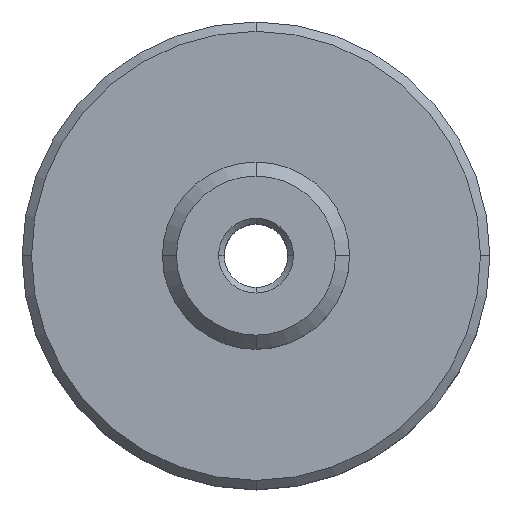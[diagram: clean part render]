
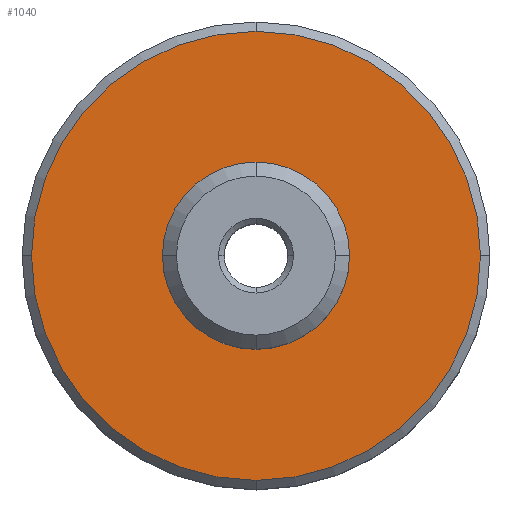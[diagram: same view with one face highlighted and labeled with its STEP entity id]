
A CAD part, top view. The second image highlights one B-rep face of the part: STEP entity #1040.
In plain terms, the highlighted planar face has unit normal (0, 0, 1).
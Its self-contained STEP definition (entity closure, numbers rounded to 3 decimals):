
#246=CARTESIAN_POINT('',(-10.,0.,0.0));
#247=VERTEX_POINT('',#246);
#263=CARTESIAN_POINT('',(0.,10.,0.0));
#264=VERTEX_POINT('',#263);
#271=CARTESIAN_POINT('',(0.0,0.0,0.0));
#272=DIRECTION('',(0.0,0.0,1.0));
#273=DIRECTION('',(0.0,-1.0,0.0));
#274=AXIS2_PLACEMENT_3D('',#271,#272,#273);
#275=CIRCLE('',#274,10.);
#276=EDGE_CURVE('',#264,#247,#275,.T.);
#288=CARTESIAN_POINT('',(-24.,0.,0.0));
#289=VERTEX_POINT('',#288);
#305=CARTESIAN_POINT('',(0.0,-24.,0.));
#306=VERTEX_POINT('',#305);
#313=CARTESIAN_POINT('',(0.0,0.0,0.0));
#314=DIRECTION('',(0.0,0.0,1.0));
#315=DIRECTION('',(0.0,-1.0,0.0));
#316=AXIS2_PLACEMENT_3D('',#313,#314,#315);
#317=CIRCLE('',#316,24.);
#318=EDGE_CURVE('',#289,#306,#317,.T.);
#556=CARTESIAN_POINT('',(24.,0.,0.0));
#557=VERTEX_POINT('',#556);
#571=CARTESIAN_POINT('',(0.,24.,0.0));
#572=VERTEX_POINT('',#571);
#579=CARTESIAN_POINT('',(0.0,0.0,0.0));
#580=DIRECTION('',(0.0,0.0,1.0));
#581=DIRECTION('',(0.0,-1.0,0.0));
#582=AXIS2_PLACEMENT_3D('',#579,#580,#581);
#583=CIRCLE('',#582,24.);
#584=EDGE_CURVE('',#557,#572,#583,.T.);
#596=CARTESIAN_POINT('',(10.,0.,0.0));
#597=VERTEX_POINT('',#596);
#611=CARTESIAN_POINT('',(0.0,-10.,0.0));
#612=VERTEX_POINT('',#611);
#619=CARTESIAN_POINT('',(0.0,0.0,0.0));
#620=DIRECTION('',(0.0,0.0,1.0));
#621=DIRECTION('',(0.0,-1.0,0.0));
#622=AXIS2_PLACEMENT_3D('',#619,#620,#621);
#623=CIRCLE('',#622,10.);
#624=EDGE_CURVE('',#612,#597,#623,.T.);
#807=CARTESIAN_POINT('',(0.0,0.0,0.0));
#808=DIRECTION('',(0.0,0.0,1.0));
#809=DIRECTION('',(0.0,-1.0,0.0));
#810=AXIS2_PLACEMENT_3D('',#807,#808,#809);
#811=CIRCLE('',#810,10.);
#812=EDGE_CURVE('',#597,#264,#811,.T.);
#825=CARTESIAN_POINT('',(0.0,0.0,0.0));
#826=DIRECTION('',(0.0,0.0,1.0));
#827=DIRECTION('',(0.0,-1.0,0.0));
#828=AXIS2_PLACEMENT_3D('',#825,#826,#827);
#829=CIRCLE('',#828,24.);
#830=EDGE_CURVE('',#306,#557,#829,.T.);
#1005=CARTESIAN_POINT('',(0.0,0.0,0.0));
#1006=DIRECTION('',(0.0,0.0,1.0));
#1007=DIRECTION('',(0.0,-1.0,0.0));
#1008=AXIS2_PLACEMENT_3D('',#1005,#1006,#1007);
#1009=CIRCLE('',#1008,24.);
#1010=EDGE_CURVE('',#572,#289,#1009,.T.);
#1017=CARTESIAN_POINT('',(-26.4,-26.4,0.0));
#1018=DIRECTION('',(0.0,0.0,1.0));
#1019=DIRECTION('',(1.0,0.0,0.0));
#1020=AXIS2_PLACEMENT_3D('',#1017,#1018,#1019);
#1021=PLANE('',#1020);
#1022=ORIENTED_EDGE('',*,*,#830,.T.);
#1023=ORIENTED_EDGE('',*,*,#584,.T.);
#1024=ORIENTED_EDGE('',*,*,#1010,.T.);
#1025=ORIENTED_EDGE('',*,*,#318,.T.);
#1026=EDGE_LOOP('',(#1022,#1023,#1024,#1025));
#1027=FACE_OUTER_BOUND('',#1026,.T.);
#1028=ORIENTED_EDGE('',*,*,#624,.F.);
#1029=CARTESIAN_POINT('',(0.0,0.0,0.0));
#1030=DIRECTION('',(0.0,0.0,1.0));
#1031=DIRECTION('',(0.0,-1.0,0.0));
#1032=AXIS2_PLACEMENT_3D('',#1029,#1030,#1031);
#1033=CIRCLE('',#1032,10.);
#1034=EDGE_CURVE('',#247,#612,#1033,.T.);
#1035=ORIENTED_EDGE('',*,*,#1034,.F.);
#1036=ORIENTED_EDGE('',*,*,#276,.F.);
#1037=ORIENTED_EDGE('',*,*,#812,.F.);
#1038=EDGE_LOOP('',(#1028,#1035,#1036,#1037));
#1039=FACE_BOUND('',#1038,.T.);
#1040=ADVANCED_FACE('',(#1027,#1039),#1021,.T.);
